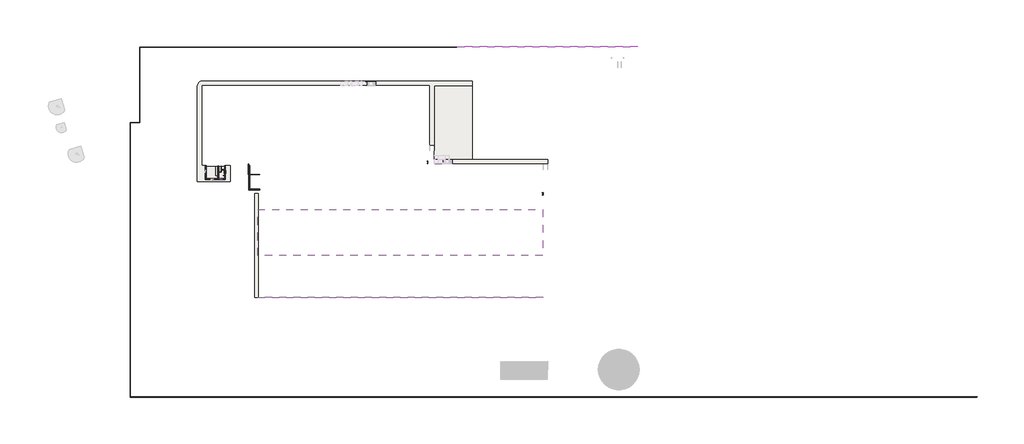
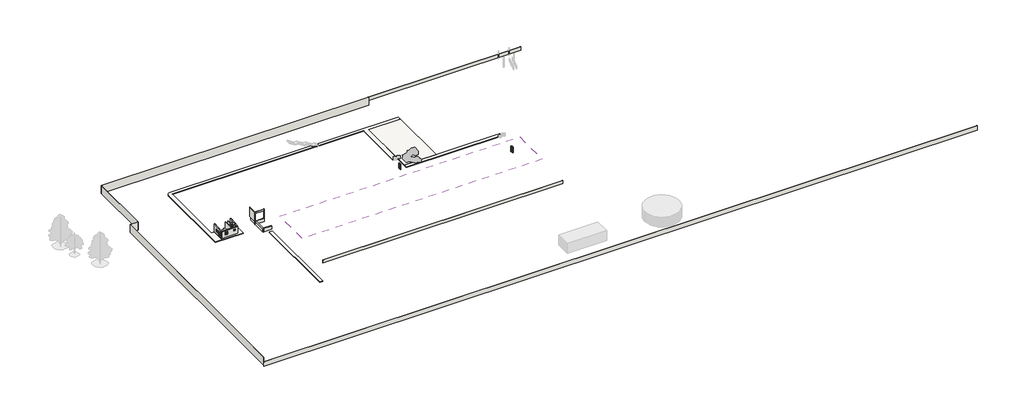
# One storey, part 1 of 5: 19 walls, 6 doors, 4 slabs, 4 windows, 1 roof.
"""IFC4 building model written with IfcOpenShell, lengths in millimetres."""

from ifc_helpers import new_model, si_unit, point, frame, frame_2d, origin, place, context, project, spatial, polyline, circle_curve, trimmed, segment, composite_curve, outline, extrude, faceted_brep, transform, mapped, element, save
from components import m_single_flush_0813_x_2030mm_9c258038, m_single_flush_0813_x_2030mm_5ea07d66, m_single_flush_700_x_2030mm_2d3d4a98, m_single_flush_700_x_2030mm_36273b71, m_single_flush_700_x_2030mm_c6211df7, m_fixed_0610_x_0610mm_01d4dfe5, m_window_casement_double_850_x_900mm_a8c8f556

model = new_model("IFC4")

# Units and contexts
model_context = context("Model", 3, world=origin())
ifc_project = project(units=[si_unit("LENGTHUNIT", "METRE", prefix="MILLI")], contexts=[model_context])

# Site, building, storey
site = spatial("IfcSite", under=ifc_project)
building = spatial("IfcBuilding", under=site)
storey = spatial("IfcBuildingStorey", under=building, Name="Hardstand", Elevation=42810.0)

# Doors
placement = place(None, origin())
m_single_flush_0813_x_2030mm_shape = m_single_flush_0813_x_2030mm_9c258038(model_context)
element("IfcDoor", 1, ObjectType="M_Single-Flush : 0813 x 2030mm", at=placement, inside=storey, context=model_context, shape_type="MappedRepresentation", body=[
    mapped(m_single_flush_0813_x_2030mm_shape, transform((-152015.801408, 7922.8298869, 42810.0), x_axis=(0.0, -1.0, 0.0), y_axis=(1.0, 0.0, 0.0), z_axis=(0.0, 0.0, 1.0))),
])
m_single_flush_0813_x_2030mm_2_shape = m_single_flush_0813_x_2030mm_5ea07d66(model_context)
element("IfcDoor", 2, ObjectType="M_Single-Flush : 0813 x 2030mm", at=placement, inside=storey, context=model_context, shape_type="MappedRepresentation", body=[
    mapped(m_single_flush_0813_x_2030mm_2_shape, transform((-145915.5458495, 7742.5158271, 42810.0), x_axis=(0.0, -1.0, 0.0), y_axis=(1.0, 0.0, 0.0), z_axis=(0.0, 0.0, 1.0))),
])
m_single_flush_700_x_2030mm_shape = m_single_flush_700_x_2030mm_2d3d4a98(model_context)
element("IfcDoor", 3, ObjectType="M_Single-Flush : 700 x 2030mm", at=placement, inside=storey, context=model_context, shape_type="MappedRepresentation", body=[
    mapped(m_single_flush_700_x_2030mm_shape, transform((-147523.5458495, 9370.0158271, 42810.0), x_axis=(1.0, 0.0, 0.0), y_axis=(0.0, 1.0, 0.0), z_axis=(0.0, 0.0, 1.0))),
])
element("IfcDoor", 4, ObjectType="M_Single-Flush : 700 x 2030mm", at=placement, inside=storey, context=model_context, shape_type="MappedRepresentation", body=[
    mapped(m_single_flush_700_x_2030mm_shape, transform((-146709.5426269, 10048.0158271, 42810.0), x_axis=(-1.0, 0.0, 0.0), y_axis=(0.0, -1.0, 0.0), z_axis=(0.0, 0.0, 1.0))),
])
m_single_flush_700_x_2030mm_2_shape = m_single_flush_700_x_2030mm_36273b71(model_context)
element("IfcDoor", 5, ObjectType="M_Single-Flush : 700 x 2030mm", at=placement, inside=storey, context=model_context, shape_type="MappedRepresentation", body=[
    mapped(m_single_flush_700_x_2030mm_2_shape, transform((-44749.0423298, 2381.6353803, 42810.0), x_axis=(0.0, -1.0, 0.0), y_axis=(1.0, 0.0, 0.0), z_axis=(0.0, 0.0, 1.0))),
])
m_single_flush_700_x_2030mm_3_shape = m_single_flush_700_x_2030mm_c6211df7(model_context)
element("IfcDoor", 6, ObjectType="M_Single-Flush : 700 x 2030mm", at=placement, inside=storey, context=model_context, shape_type="MappedRepresentation", body=[
    mapped(m_single_flush_700_x_2030mm_3_shape, transform((-81397.9372768, 12417.9873575, 42810.0), x_axis=(0.0, -1.0, 0.0), y_axis=(1.0, 0.0, 0.0), z_axis=(0.0, 0.0, 1.0))),
])

# Roof
element("IfcRoof", 7, ObjectType="Isopanel 100", at=placement, inside=storey, context=model_context, shape_type="SweptSolid", body=[
    extrude(outline(polyline([(-17321.740321, 51975.2527003), (-2530.7222488, 53269.2991036), (-2530.7222488, 53168.9171199), (-17321.740321, 51874.8707166), (-17321.740321, 51975.2527003)])), frame((-135438.5917799, 0.0, 0.0), z_axis=(1.0, 0.0, 0.0), x_axis=(0.0, 1.0, 0.0)), (0.0, 0.0, 1.0), 90689.5494501),
])

# Slabs
element("IfcSlab", 8, ObjectType="Counter", at=placement, inside=storey, context=model_context, shape_type="SweptSolid", body=[
    extrude(outline(polyline([(-148180.5458495, 11159.0158271), (-148180.5458495, 8223.9606112), (-148840.801408, 8223.9606112), (-148840.801408, 11159.0158271), (-148180.5458495, 11159.0158271)])), frame((0.0, 0.0, 43260.0), z_axis=(0.0, 0.0, 1.0), x_axis=(1.0, 0.0, 0.0)), (0.0, 0.0, 1.0), 50.0),
])
element("IfcSlab", 9, ObjectType="Generic 150mm", at=placement, inside=storey, context=model_context, shape_type="SweptSolid", body=[
    extrude(outline(polyline([(-145780.5458495, 11159.0158271), (-145780.5458495, 6989.0158271), (-152150.801408, 6989.0158271), (-152150.801408, 11159.0158271), (-145780.5458495, 11159.0158271)])), frame((0.0, 0.0, 42780.0), z_axis=(0.0, 0.0, 1.0), x_axis=(1.0, 0.0, 0.0)), (0.0, 0.0, 1.0), 200.0),
])
element("IfcSlab", 10, ObjectType="grass", at=placement, inside=storey, context=model_context, shape_type="SweptSolid", body=[
    extrude(outline(polyline([(-67100.5917799, 36973.4058517), (-67100.5917799, 13386.2777512), (-79187.9372768, 13386.2777512), (-79187.9372768, 36973.4058517), (-67100.5917799, 36973.4058517)])), frame((0.0, 0.0, 42760.0), z_axis=(0.0, 0.0, 1.0), x_axis=(1.0, 0.0, 0.0)), (0.0, 0.0, 1.0), 150.0),
])
element("IfcSlab", 11, ObjectType="paving", at=placement, inside=storey, context=model_context, shape_type="SweptSolid", body=[
    extrude(outline(composite_curve([segment(polyline([(-67100.5917799, 38266.2777512), (-67100.5917799, 36973.4058517), (-79187.9372768, 36973.4058517), (-79187.9372768, 18017.4703267), (-80762.5917799, 18017.4703267), (-80762.5917799, 37066.2777512), (-153300.5917799, 37066.2777512), (-153300.5917799, 11448.2777512), (-152150.801408, 11448.2777512), (-152150.801408, 6948.2777512), (-145750.801408, 6948.2777512), (-145750.801408, 11448.2777512), (-144258.459765, 11448.2777512), (-144258.459765, 6248.2777512), (-154800.5917799, 6248.2777512), (-154800.5917799, 36573.4058517)]), True, "CONTINUOUS"), segment(trimmed(circle_curve(frame_2d((-152954.5809995, 36521.0091802)), 1846.7542371), [point((-154800.5917799, 36573.4058517))], [point((-153558.3515083, 38266.2777512))], False, "CARTESIAN"), True, "CONTINUOUS"), segment(polyline([(-153558.3515083, 38266.2777512), (-67100.5917799, 38266.2777512)]), True, "CONTINUOUS")], self_intersect=False)), frame((0.0, 0.0, 42760.0), z_axis=(0.0, 0.0, 1.0), x_axis=(1.0, 0.0, 0.0)), (0.0, 0.0, 1.0), 150.0),
    extrude(outline(polyline([(-135300.5917799, 2475.2225353), (-135300.5917799, -30551.740321), (-136500.5917799, -30551.740321), (-136500.5917799, 2475.2225353), (-135300.5917799, 2475.2225353)])), frame((0.0, 0.0, 42760.0), z_axis=(0.0, 0.0, 1.0), x_axis=(1.0, 0.0, 0.0)), (0.0, 0.0, 1.0), 150.0),
    extrude(outline(polyline([(-79132.5917799, 13386.2777512), (-43099.4423298, 13386.2777512), (-43099.4423298, 12048.2777512), (-79132.5917799, 12048.2777512), (-79132.5917799, 13386.2777512)])), frame((0.0, 0.0, 42760.0), z_axis=(0.0, 0.0, 1.0), x_axis=(1.0, 0.0, 0.0)), (0.0, 0.0, 1.0), 150.0),
])

# Walls
element("IfcWall", 12, ObjectType="300 bund wall", at=placement, inside=storey, context=model_context, shape_type="Brep", body=[
    faceted_brep([(-138275.9372768, 11448.2777512, 42810.0), (-138275.9372768, 3573.2225353, 42810.0), (-138275.9372768, 3573.2225353, 44070.0), (-138275.9372768, 11448.2777512, 44070.0), (-137975.9372768, 11448.2777512, 42810.0), (-137975.9372768, 11448.2777512, 44070.0), (-137975.9372768, 3873.2225353, 44070.0), (-137975.9372768, 3573.2225353, 44070.0), (-137975.9372768, 3573.2225353, 42810.0), (-137975.9372768, 3873.2225353, 42810.0)], [[[0, 1, 2, 3]], [[4, 5, 6, 7, 8, 9]], [[1, 0, 4, 9, 8]], [[3, 2, 7, 6, 5]], [[2, 1, 8, 7]], [[0, 3, 5, 4]]]),
])
element("IfcWall", 13, ObjectType="300 bund wall", at=placement, inside=storey, context=model_context, shape_type="SweptSolid", body=[
    extrude(outline(polyline([(-134900.5917799, 3573.2225353), (-137975.9372768, 3573.2225353), (-137975.9372768, 3873.2225353), (-134900.5917799, 3873.2225353), (-134900.5917799, 3573.2225353)])), frame((0.0, 0.0, 42810.0), z_axis=(0.0, 0.0, 1.0), x_axis=(1.0, 0.0, 0.0)), (0.0, 0.0, 1.0), 1260.0),
])
element("IfcWall", 14, ObjectType="22 Partition", at=placement, inside=storey, context=model_context, shape_type="Brep", body=[
    faceted_brep([(-147073.5458495, 9359.0158271, 45610.0), (-147950.5458495, 9359.0158271, 45610.0), (-147950.5458495, 9359.0158271, 42810.0), (-147873.5458495, 9359.0158271, 42810.0), (-147873.5458495, 9359.0158271, 44840.0), (-147173.5458495, 9359.0158271, 44840.0), (-147173.5458495, 9359.0158271, 42810.0), (-147073.5458495, 9359.0158271, 42810.0), (-147950.5458495, 9381.0158271, 45610.0), (-147095.5458495, 9381.0158271, 45610.0), (-147073.5458495, 9381.0158271, 45610.0), (-147073.5458495, 9381.0158271, 42810.0), (-147095.5458495, 9381.0158271, 42810.0), (-147173.5458495, 9381.0158271, 42810.0), (-147173.5458495, 9381.0158271, 44840.0), (-147873.5458495, 9381.0158271, 44840.0), (-147873.5458495, 9381.0158271, 42810.0), (-147950.5458495, 9381.0158271, 42810.0)], [[[0, 1, 2, 3, 4, 5, 6, 7]], [[8, 9, 10, 11, 12, 13, 14, 15, 16, 17]], [[11, 7, 6, 13, 12]], [[2, 17, 16, 3]], [[1, 0, 10, 9, 8]], [[5, 14, 13, 6]], [[15, 4, 3, 16]], [[0, 7, 11, 10]], [[2, 1, 8, 17]], [[4, 15, 14, 5]]]),
])
element("IfcWall", 15, ObjectType="22 Partition", at=placement, inside=storey, context=model_context, shape_type="Brep", body=[
    faceted_brep([(-147095.5458495, 11194.0158271, 42810.0), (-147095.5458495, 9381.0158271, 42810.0), (-147095.5458495, 9381.0158271, 45610.0), (-147095.5458495, 11194.0158271, 45610.0), (-147073.5458495, 11194.0158271, 42810.0), (-147073.5458495, 11194.0158271, 45610.0), (-147073.5458495, 10059.0158271, 45610.0), (-147073.5458495, 10037.0158271, 45610.0), (-147073.5458495, 9381.0158271, 45610.0), (-147073.5458495, 9381.0158271, 42810.0), (-147073.5458495, 10037.0158271, 42810.0), (-147073.5458495, 10059.0158271, 42810.0)], [[[0, 1, 2, 3]], [[4, 5, 6, 7, 8, 9, 10, 11]], [[1, 0, 4, 11, 10, 9]], [[3, 2, 8, 7, 6, 5]], [[2, 1, 9, 8]], [[0, 3, 5, 4]]]),
])
element("IfcWall", 16, ObjectType="22 Partition", at=placement, inside=storey, context=model_context, shape_type="SweptSolid", body=[
    extrude(outline(polyline([(45610.0, -146050.5458495), (45610.0, -147073.5458495), (42810.0, -147073.5458495), (42810.0, -147059.5426269), (44840.0, -147059.5426269), (44840.0, -146359.5426269), (42810.0, -146359.5426269), (42810.0, -146050.5458495), (45610.0, -146050.5458495)])), frame((0.0, 10037.0158271, 0.0), z_axis=(0.0, 1.0, 0.0), x_axis=(0.0, 0.0, 1.0)), (0.0, 0.0, 1.0), 22.0),
])
element("IfcWall", 17, ObjectType="22 Partition", at=placement, inside=storey, context=model_context, shape_type="SweptSolid", body=[
    extrude(outline(polyline([(-146050.5458495, 8269.7094789), (-146524.5415527, 8269.7094789), (-146524.5415527, 8291.7094789), (-146050.5458495, 8291.7094789), (-146050.5458495, 8269.7094789)])), frame((0.0, 0.0, 42810.0), z_axis=(0.0, 0.0, 1.0), x_axis=(1.0, 0.0, 0.0)), (0.0, 0.0, 1.0), 2800.0),
])
element("IfcWall", 18, ObjectType="Cladding 3", at=placement, inside=storey, context=model_context, shape_type="Brep", body=[
    faceted_brep([(-134900.5917799, 8613.2225353, 42810.0), (-138445.7798584, 8613.2225353, 42810.0), (-138445.7798584, 8613.2225353, 43976.4682314), (-138445.7798584, 8613.2225353, 47720.0), (-138407.7798584, 8613.2225353, 47720.0), (-134900.5917799, 8613.2225353, 47720.0), (-135122.9372768, 8613.2225353, 47170.0), (-138122.9372768, 8613.2225353, 47170.0), (-138122.9372768, 8613.2225353, 44170.0), (-135122.9372768, 8613.2225353, 44170.0), (-138445.7798584, 8575.2225353, 42810.0), (-134900.5917799, 8575.2225353, 42810.0), (-134900.5917799, 8575.2225353, 47720.0), (-138445.7798584, 8575.2225353, 47720.0), (-138122.9372768, 8575.2225353, 47170.0), (-135122.9372768, 8575.2225353, 47170.0), (-135122.9372768, 8575.2225353, 44170.0), (-138122.9372768, 8575.2225353, 44170.0)], [[[0, 1, 2, 3, 4, 5], [6, 7, 8, 9]], [[10, 11, 12, 13], [14, 15, 16, 17]], [[1, 0, 11, 10]], [[5, 4, 3, 13, 12]], [[3, 2, 1, 10, 13]], [[5, 12, 11, 0]], [[14, 7, 6, 15]], [[15, 6, 9, 16]], [[16, 9, 8, 17]], [[7, 14, 17, 8]]]),
])
element("IfcWall", 19, ObjectType="Cladding 3", at=placement, inside=storey, context=model_context, shape_type="SweptSolid", body=[
    extrude(outline(polyline([(-138407.7798584, 11908.2777512), (-138407.7798584, 8613.2225353), (-138445.7798584, 8613.2225353), (-138445.7798584, 11908.2777512), (-138407.7798584, 11908.2777512)])), frame((0.0, 0.0, 43976.4682314), z_axis=(0.0, 0.0, 1.0), x_axis=(1.0, 0.0, 0.0)), (0.0, 0.0, 1.0), 3743.5317686),
])
element("IfcWall", 20, ObjectType="Cladding 3", at=placement, inside=storey, context=model_context, shape_type="SweptSolid", body=[
    extrude(outline(polyline([(-135450.5917799, -30656.740321), (-44618.0423298, -30656.740321), (-44618.0423298, -30694.740321), (-135450.5917799, -30694.740321), (-135450.5917799, -30656.740321)])), frame((0.0, 0.0, 50158.760304), z_axis=(0.0, 0.0, 1.0), x_axis=(1.0, 0.0, 0.0)), (0.0, 0.0, 1.0), 1261.239696),
])
element("IfcWall", 21, ObjectType="fence", at=placement, inside=storey, context=model_context, shape_type="Brep", body=[
    faceted_brep([(-176021.7227271, -62447.9895578, 42347.2381502), (93754.3855905, -62290.0985814, 42347.2381502), (93754.3855905, -62290.0985814, 44147.2381502), (-176021.7227271, -62447.9895578, 44147.2381502), (-176021.7227271, -62437.9895561, 42347.2381502), (-176021.7227271, -62437.9895561, 42810.0), (-176021.7227271, -62437.9895561, 44147.2381502), (93754.3797379, -62280.0985831, 44147.2381502), (93754.3797379, -62280.0985831, 42347.2381502)], [[[0, 1, 2, 3]], [[4, 5, 6, 7, 8]], [[1, 0, 4, 8]], [[2, 1, 8, 7]], [[3, 2, 7, 6]], [[0, 3, 6, 5, 4]]]),
])
element("IfcWall", 22, ObjectType="fence", at=placement, inside=storey, context=model_context, shape_type="Brep", body=[
    faceted_brep([(-176011.7227271, -62437.9837034, 42810.0), (-176011.7227271, 25100.9879107, 42810.0), (-176011.7227271, 25110.9879107, 42810.0), (-176011.7227271, 25110.9879107, 45890.7850069), (-176011.7227271, -62437.9837034, 45890.7850069), (-176021.7227271, -62437.9895561, 42810.0), (-176021.7227271, -62437.9895561, 44147.2381502), (-176021.7227271, -62437.9895561, 45890.7850069), (-176021.7227271, 25110.9879107, 45890.7850069), (-176021.7227271, 25110.9879107, 42810.0)], [[[0, 1, 2, 3, 4]], [[5, 6, 7, 8, 9]], [[2, 1, 0, 5, 9]], [[4, 3, 8, 7]], [[0, 4, 7, 6, 5]], [[3, 2, 9, 8]]]),
])
element("IfcWall", 23, ObjectType="fence", at=placement, inside=storey, context=model_context, shape_type="Brep", body=[
    faceted_brep([(-176011.7227271, 25100.9879107, 42810.0), (-173016.7258421, 25100.9879107, 42810.0), (-173016.7258421, 25100.9879107, 45917.3705686), (-176011.7227271, 25100.9879107, 45917.3705686), (-176011.7227271, 25110.9879107, 42810.0), (-176011.7227271, 25110.9879107, 45890.7850069), (-176011.7227271, 25110.9879107, 45917.3705686), (-173016.7258421, 25110.9879107, 45917.3705686), (-173016.7258421, 25110.9879107, 45890.7850069), (-173016.7258421, 25110.9879107, 42810.0), (-173026.7258421, 25110.9879107, 42810.0)], [[[0, 1, 2, 3]], [[4, 5, 6, 7, 8, 9, 10]], [[1, 0, 4, 10, 9]], [[3, 2, 7, 6]], [[0, 3, 6, 5, 4]], [[2, 1, 9, 8, 7]]]),
])
element("IfcWall", 24, ObjectType="fence", at=placement, inside=storey, context=model_context, shape_type="Brep", body=[
    faceted_brep([(-173016.7258421, 25110.9879107, 42810.0), (-173016.7258421, 49100.8491221, 42810.0), (-173016.7258421, 49110.8491221, 42810.0), (-173016.7258421, 49110.8491221, 45890.7850069), (-173016.7258421, 25110.9879107, 45890.7850069), (-173026.7258421, 25110.9879107, 42810.0), (-173026.7258421, 25110.9879107, 45890.7850069), (-173026.7258421, 49110.8491221, 45890.7850069), (-173026.7258421, 49110.8491221, 42810.0)], [[[0, 1, 2, 3, 4]], [[5, 6, 7, 8]], [[2, 1, 0, 5, 8]], [[4, 3, 7, 6]], [[0, 4, 6, 5]], [[3, 2, 8, 7]]]),
])
element("IfcWall", 25, ObjectType="fence", at=placement, inside=storey, context=model_context, shape_type="Brep", body=[
    faceted_brep([(-173016.7258421, 49100.8491221, 42810.0), (-72064.0423298, 49100.8491221, 42810.0), (-72064.0423298, 49100.8491221, 45917.3705686), (-173016.7258421, 49100.8491221, 45917.3705686), (-173016.7258421, 49110.8491221, 42810.0), (-173016.7258421, 49110.8491221, 45890.7850069), (-173016.7258421, 49110.8491221, 45917.3705686), (-72064.0423298, 49110.8491221, 45917.3705686), (-72064.0423298, 49110.8491221, 42810.0)], [[[0, 1, 2, 3]], [[4, 5, 6, 7, 8]], [[1, 0, 4, 8]], [[2, 1, 8, 7]], [[3, 2, 7, 6]], [[0, 3, 6, 5, 4]]]),
])
element("IfcWall", 26, ObjectType="fence", at=placement, inside=storey, context=model_context, shape_type="SweptSolid", body=[
    extrude(outline(polyline([(-14425.287182, 49379.868757), (-71965.7261984, 49315.6538285), (-71965.7373584, 49325.6538222), (-14425.2983419, 49389.8687508), (-14425.287182, 49379.868757)])), frame((0.0, 0.0, 44345.4881779), z_axis=(0.0, 0.0, 1.0), x_axis=(1.0, 0.0, 0.0)), (0.0, 0.0, 1.0), 1571.8823907),
])
element("IfcWall", 27, ObjectType="wall Brick 230", at=placement, inside=storey, context=model_context, shape_type="Brep", body=[
    faceted_brep([(-147950.5458495, 7259.0158271, 42810.0), (-147950.5458495, 9359.0158271, 42810.0), (-147950.5458495, 9381.0158271, 42810.0), (-147950.5458495, 11194.0158271, 42810.0), (-147950.5458495, 11194.0158271, 45610.0), (-147950.5458495, 9381.0158271, 45610.0), (-147950.5458495, 9359.0158271, 45610.0), (-147950.5458495, 7259.0158271, 45610.0), (-148180.5458495, 7259.0158271, 42810.0), (-148180.5458495, 7259.0158271, 45610.0), (-148180.5458495, 11194.0158271, 45610.0), (-148180.5458495, 11194.0158271, 42810.0)], [[[0, 1, 2, 3, 4, 5, 6, 7]], [[8, 9, 10, 11]], [[3, 2, 1, 0, 8, 11]], [[7, 6, 5, 4, 10, 9]], [[0, 7, 9, 8]], [[4, 3, 11, 10]]]),
])
element("IfcWall", 28, ObjectType="wall Brick 270", at=placement, inside=storey, context=model_context, shape_type="Brep", body=[
    faceted_brep([(-152150.801408, 6989.0158271, 42810.0), (-152150.801408, 6989.0158271, 45737.5564093), (-152150.801408, 11424.0158271, 46153.3831283), (-152150.801408, 11424.0158271, 42810.0), (-152150.801408, 8329.3298869, 42810.0), (-152150.801408, 8329.3298869, 44840.0), (-152150.801408, 7516.3298869, 44840.0), (-152150.801408, 7516.3298869, 42810.0), (-152150.801408, 10019.172857, 43986.3699193), (-152150.801408, 10019.172857, 44886.3699193), (-152150.801408, 9169.172857, 44886.3699193), (-152150.801408, 9169.172857, 43986.3699193), (-151880.801408, 6989.0158271, 45737.5564093), (-151880.801408, 6989.0158271, 45610.0), (-151880.801408, 6989.0158271, 42810.0), (-151880.801408, 7259.0158271, 42810.0), (-151880.801408, 7516.3298869, 42810.0), (-151880.801408, 7516.3298869, 44840.0), (-151880.801408, 8329.3298869, 44840.0), (-151880.801408, 8329.3298869, 42810.0), (-151880.801408, 11194.0158271, 42810.0), (-151880.801408, 11424.0158271, 42810.0), (-151880.801408, 11424.0158271, 46153.3831283), (-151880.801408, 10019.172857, 44886.3699193), (-151880.801408, 10019.172857, 43986.3699193), (-151880.801408, 9169.172857, 43986.3699193), (-151880.801408, 9169.172857, 44886.3699193)], [[[0, 1, 2, 3, 4, 5, 6, 7], [8, 9, 10, 11]], [[12, 13, 14, 15, 16, 17, 18, 19, 20, 21, 22], [23, 24, 25, 26]], [[1, 0, 14, 13, 12]], [[7, 6, 17, 16]], [[5, 4, 19, 18]], [[23, 9, 8, 24]], [[24, 8, 11, 25]], [[25, 11, 10, 26]], [[5, 18, 17, 6]], [[9, 23, 26, 10]], [[0, 7, 16, 15, 14]], [[4, 3, 21, 20, 19]], [[2, 1, 12, 22]], [[3, 2, 22, 21]]]),
])
element("IfcWall", 29, ObjectType="wall Brick 270", at=placement, inside=storey, context=model_context, shape_type="Brep", body=[
    faceted_brep([(-151880.801408, 6989.0158271, 42810.0), (-145780.5458495, 6989.0158271, 42810.0), (-145780.5458495, 6989.0158271, 45610.0), (-151880.801408, 6989.0158271, 45610.0), (-150504.8044664, 6989.0158271, 44023.6864148), (-150504.8044664, 6989.0158271, 44923.6864148), (-149654.8044664, 6989.0158271, 44923.6864148), (-149654.8044664, 6989.0158271, 44023.6864148), (-147395.5458495, 6989.0158271, 44300.0), (-147395.5458495, 6989.0158271, 44910.0), (-146785.5458495, 6989.0158271, 44910.0), (-146785.5458495, 6989.0158271, 44300.0), (-145780.5458495, 7259.0158271, 42810.0), (-146050.5458495, 7259.0158271, 42810.0), (-147950.5458495, 7259.0158271, 42810.0), (-148180.5458495, 7259.0158271, 42810.0), (-151880.801408, 7259.0158271, 42810.0), (-151880.801408, 7259.0158271, 45610.0), (-148180.5458495, 7259.0158271, 45610.0), (-147950.5458495, 7259.0158271, 45610.0), (-145780.5458495, 7259.0158271, 45610.0), (-150504.8044664, 7259.0158271, 44923.6864148), (-150504.8044664, 7259.0158271, 44023.6864148), (-149654.8044664, 7259.0158271, 44023.6864148), (-149654.8044664, 7259.0158271, 44923.6864148), (-147395.5458495, 7259.0158271, 44910.0), (-147395.5458495, 7259.0158271, 44300.0), (-146785.5458495, 7259.0158271, 44300.0), (-146785.5458495, 7259.0158271, 44910.0)], [[[0, 1, 2, 3], [4, 5, 6, 7], [8, 9, 10, 11]], [[12, 13, 14, 15, 16, 17, 18, 19, 20], [21, 22, 23, 24], [25, 26, 27, 28]], [[1, 0, 16, 15, 14, 13, 12]], [[3, 2, 20, 19, 18, 17]], [[0, 3, 17, 16]], [[2, 1, 12, 20]], [[21, 5, 4, 22]], [[22, 4, 7, 23]], [[23, 7, 6, 24]], [[5, 21, 24, 6]], [[25, 9, 8, 26]], [[9, 25, 28, 10]], [[10, 28, 27, 11]], [[26, 8, 11, 27]]]),
])
element("IfcWall", 30, ObjectType="wall Brick 270", at=placement, inside=storey, context=model_context, shape_type="Brep", body=[
    faceted_brep([(-145780.5458495, 7259.0158271, 45764.4686036), (-145780.5458495, 7259.0158271, 45610.0), (-145780.5458495, 7259.0158271, 42810.0), (-145780.5458495, 7336.0158271, 42810.0), (-145780.5458495, 7336.0158271, 44840.0), (-145780.5458495, 8149.0158271, 44840.0), (-145780.5458495, 8149.0158271, 42810.0), (-145780.5458495, 11424.0158271, 42810.0), (-145780.5458495, 11424.0158271, 46154.9800545), (-145780.5458495, 8984.5816267, 43710.0), (-145780.5458495, 8984.5816267, 44610.0), (-145780.5458495, 9834.5816267, 44610.0), (-145780.5458495, 9834.5816267, 43710.0), (-146050.5458495, 7259.0158271, 42810.0), (-146050.5458495, 7259.0158271, 45764.4686036), (-146050.5458495, 11424.0158271, 46154.9800545), (-146050.5458495, 11424.0158271, 46153.487919), (-146050.5458495, 11424.0158271, 42810.0), (-146050.5458495, 11194.0158271, 42810.0), (-146050.5458495, 10059.0158271, 42810.0), (-146050.5458495, 10037.0158271, 42810.0), (-146050.5458495, 8291.7094789, 42810.0), (-146050.5458495, 8269.7094789, 42810.0), (-146050.5458495, 8149.0158271, 42810.0), (-146050.5458495, 8149.0158271, 44840.0), (-146050.5458495, 7336.0158271, 44840.0), (-146050.5458495, 7336.0158271, 42810.0), (-146050.5458495, 8984.5816267, 44610.0), (-146050.5458495, 8984.5816267, 43710.0), (-146050.5458495, 9834.5816267, 43710.0), (-146050.5458495, 9834.5816267, 44610.0)], [[[0, 1, 2, 3, 4, 5, 6, 7, 8], [9, 10, 11, 12]], [[13, 14, 15, 16, 17, 18, 19, 20, 21, 22, 23, 24, 25, 26], [27, 28, 29, 30]], [[2, 1, 0, 14, 13]], [[4, 3, 26, 25]], [[6, 5, 24, 23]], [[27, 10, 9, 28]], [[28, 9, 12, 29]], [[29, 12, 11, 30]], [[24, 5, 4, 25]], [[10, 27, 30, 11]], [[3, 2, 13, 26]], [[7, 6, 23, 22, 21, 20, 19, 18, 17]], [[0, 8, 15, 14]], [[8, 7, 17, 16, 15]]]),
])

# Windows
m_fixed_0610_x_0610mm_shape = m_fixed_0610_x_0610mm_01d4dfe5(model_context)
element("IfcWindow", 31, ObjectType="M_Fixed : 0610 x 0610mm", at=placement, inside=storey, context=model_context, shape_type="MappedRepresentation", body=[
    mapped(m_fixed_0610_x_0610mm_shape, transform((-147090.5458495, 7111.0158271, 43385.0), x_axis=(1.0, 0.0, 0.0), y_axis=(0.0, 1.0, 0.0), z_axis=(0.0, 0.0, 1.0))),
])
m_window_casement_double_850_x_900mm_shape = m_window_casement_double_850_x_900mm_a8c8f556(model_context)
element("IfcWindow", 32, ObjectType="M_Window-Casement-Double : 850 x 900mm", at=placement, inside=storey, context=model_context, shape_type="MappedRepresentation", body=[
    mapped(m_window_casement_double_850_x_900mm_shape, transform((-145915.5458495, 9409.5816267, 42810.0), x_axis=(0.0, -1.0, 0.0), y_axis=(1.0, 0.0, 0.0), z_axis=(0.0, 0.0, 1.0))),
])
element("IfcWindow", 33, ObjectType="M_Window-Casement-Double : 850 x 900mm", at=placement, inside=storey, context=model_context, shape_type="MappedRepresentation", body=[
    mapped(m_window_casement_double_850_x_900mm_shape, transform((-152015.801408, 9594.172857, 43086.3699193), x_axis=(0.0, 1.0, 0.0), y_axis=(-1.0, 0.0, 0.0), z_axis=(0.0, 0.0, 1.0))),
])
element("IfcWindow", 34, ObjectType="M_Window-Casement-Double : 850 x 900mm", at=placement, inside=storey, context=model_context, shape_type="MappedRepresentation", body=[
    mapped(m_window_casement_double_850_x_900mm_shape, transform((-150079.8044664, 7124.0158271, 43123.6864148), x_axis=(-1.0, 0.0, 0.0), y_axis=(0.0, -1.0, 0.0), z_axis=(0.0, 0.0, 1.0))),
])

save(model, "model.ifc")
